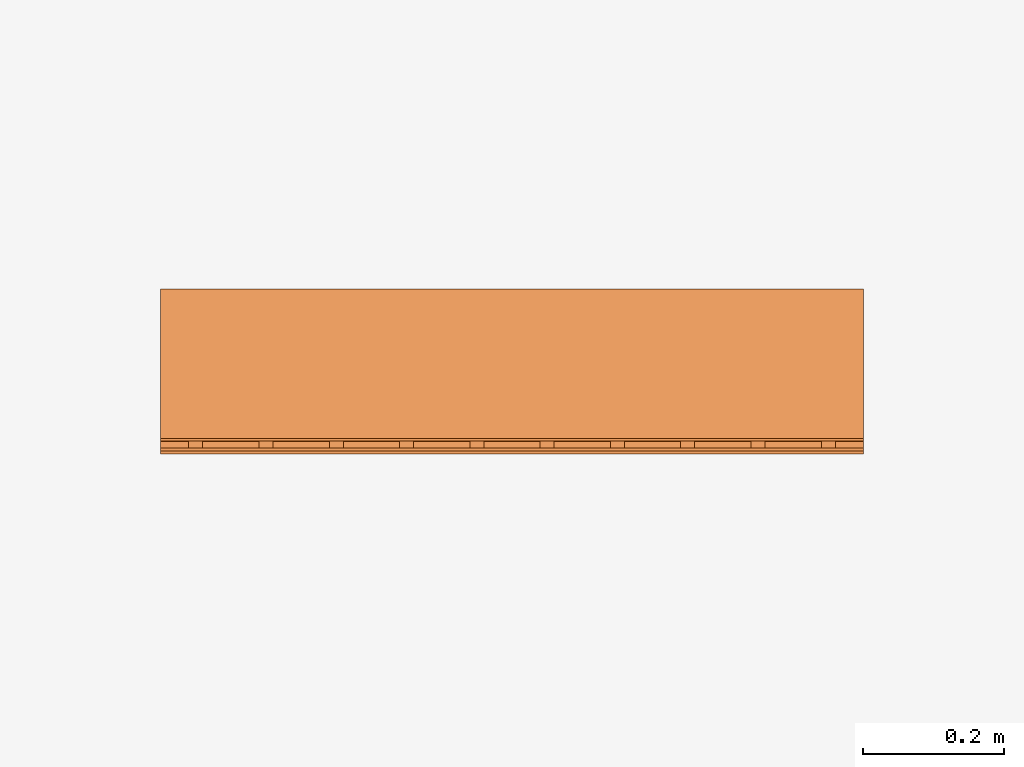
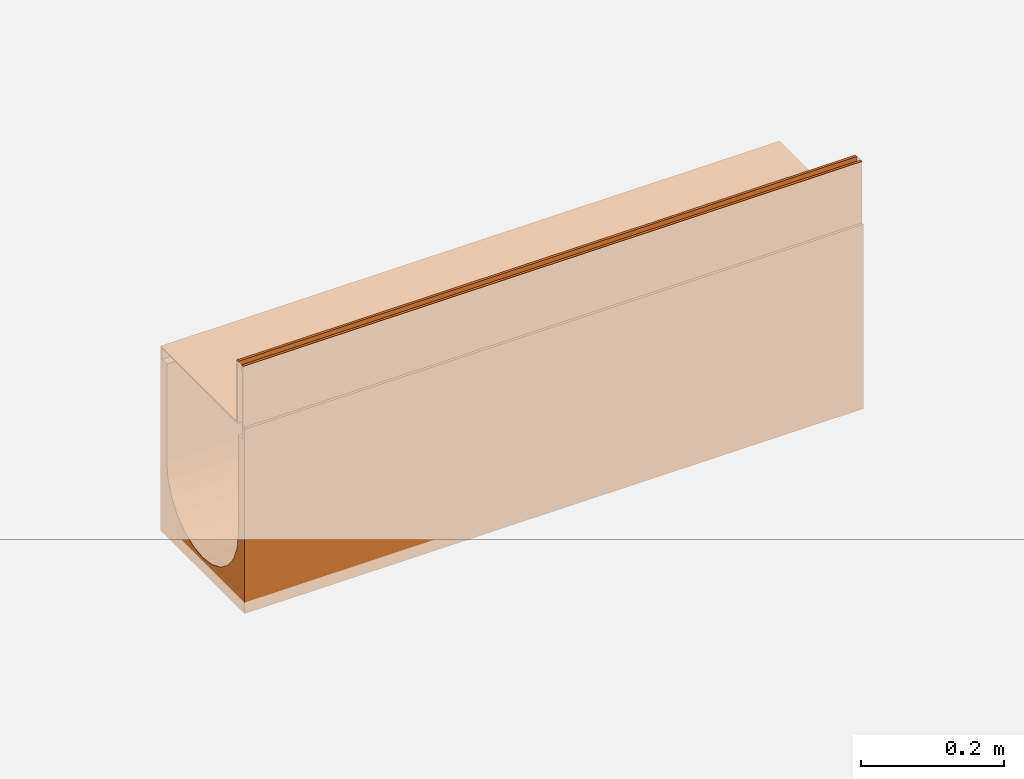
# One storey, part 2 of 2: 1 proxy.
"""IFC2X3 building model written with IfcOpenShell, lengths in millimetres."""

import ifcopenshell
import ifcopenshell.guid

model = None  # the IFC model being written
_history = None  # IfcOwnerHistory: only IFC2X3 demands one
_inside = {}  # id of a spatial element -> (the spatial element, [elements in it])
_under = {}  # id of a project, library or spatial element -> (it, [spatial elements below it])
_declared = {}  # id of a project -> (the project, [libraries it declares])
_typed = {}  # id of a type object -> (the type object, [elements of that type])
_made_of = {}  # id of a material, layer set ... -> (it, [elements and type objects made of it])


def new_model(schema):
    """Start an empty IFC model of exactly this schema.

    Asked for "IFC4X3", IfcOpenShell would pick the latest addendum, in which some entities
    have other attributes; the version numbers below select the first issue.
    IFC2X3 requires an IfcOwnerHistory on every rooted entity: one is made here for all.
    """
    global model, _history
    if schema == "IFC4X3":
        model = ifcopenshell.file(schema_version=(4, 3, 0, 0))
    else:
        model = ifcopenshell.file(schema=schema)
    _inside.clear()
    _under.clear()
    _declared.clear()
    _typed.clear()
    _made_of.clear()
    _history = None
    if model.schema == "IFC2X3":
        org = make("IfcOrganization", Name="unknown")
        user = make(
            "IfcPersonAndOrganization",
            ThePerson=make("IfcPerson", FamilyName="unknown"),
            TheOrganization=org,
        )
        app = make(
            "IfcApplication",
            ApplicationDeveloper=org,
            Version="unknown",
            ApplicationFullName="unknown",
            ApplicationIdentifier="unknown",
        )
        _history = make(
            "IfcOwnerHistory",
            OwningUser=user,
            OwningApplication=app,
            ChangeAction="ADDED",
            CreationDate=0,
        )
    return model


def make(cls, **values):
    """One entity of the class cls with the attributes given. An attribute that is None is left unset."""
    return model.create_entity(
        cls, **{name: value for name, value in values.items() if value is not None}
    )


def entity(cls, *values):
    """Any entity or typed value of the class cls, its attributes in the order of the schema. None: left unset."""
    e = model.create_entity(cls)
    for i, value in enumerate(values):
        if value is not None:
            e[i] = value
    return e


def rooted(cls, **values):
    """An entity with a GlobalId (a new one), such as an element, a storey or a relation."""
    return make(cls, GlobalId=ifcopenshell.guid.new(), OwnerHistory=_history, **values)


def si_unit(unit_type, name, prefix=None):
    """IfcSIUnit, for example si_unit("LENGTHUNIT", "METRE", prefix="MILLI")."""
    return make("IfcSIUnit", UnitType=unit_type, Prefix=prefix, Name=name)


def converted_unit(unit_type, name, factor, base, dimensions=None, offset=None):
    """IfcConversionBasedUnit, such as the inch: factor (a typed value) times the base unit."""
    return make(
        "IfcConversionBasedUnit"
        if offset is None
        else "IfcConversionBasedUnitWithOffset",
        ConversionOffset=offset,
        Dimensions=None
        if dimensions is None
        else entity("IfcDimensionalExponents", *dimensions),
        UnitType=unit_type,
        Name=name,
        ConversionFactor=make(
            "IfcMeasureWithUnit", ValueComponent=factor, UnitComponent=base
        ),
    )


def assignment(units):
    """IfcUnitAssignment: the units of a project."""
    return None if units is None else make("IfcUnitAssignment", Units=units)


def point(xyz):
    """IfcCartesianPoint."""
    return None if xyz is None else make("IfcCartesianPoint", Coordinates=xyz)


def direction(xyz):
    """IfcDirection."""
    return None if xyz is None else make("IfcDirection", DirectionRatios=xyz)


def frame(location, z_axis=None, x_axis=None):
    """IfcAxis2Placement3D, a coordinate frame: its origin and axes. An axis left out is left unset."""
    return make(
        "IfcAxis2Placement3D",
        Location=point(location),
        Axis=direction(z_axis),
        RefDirection=direction(x_axis),
    )


def origin():
    """The frame at (0, 0, 0) with its axes left unset."""
    return frame((0.0, 0.0, 0.0))


def place(relative_to, where):
    """IfcLocalPlacement: puts the frame where relative to a parent placement (None: the world)."""
    return make(
        "IfcLocalPlacement", PlacementRelTo=relative_to, RelativePlacement=where
    )


def context(
    kind, dimensions, precision=None, world=None, true_north=None, identifier=None
):
    """IfcGeometricRepresentationContext, for example the 3D "Model" context."""
    return make(
        "IfcGeometricRepresentationContext",
        ContextIdentifier=identifier,
        ContextType=kind,
        CoordinateSpaceDimension=dimensions,
        Precision=precision,
        WorldCoordinateSystem=world,
        TrueNorth=true_north,
    )


def subcontext(parent, identifier, kind, view, scale=None):
    """IfcGeometricRepresentationSubContext, for example "Body" below "Model"."""
    return make(
        "IfcGeometricRepresentationSubContext",
        ContextIdentifier=identifier,
        ContextType=kind,
        ParentContext=parent,
        TargetScale=scale,
        TargetView=view,
    )


def project(units=None, contexts=None):
    """IfcProject with its units and contexts."""
    return rooted(
        "IfcProject",
        Name="project",
        RepresentationContexts=contexts,
        UnitsInContext=assignment(units),
    )


def spatial(cls, under=None, at=None, **own):
    """A site, building, storey or space (cls), placed at a placement, below another one or the project."""
    s = rooted(cls, ObjectPlacement=at, **own)
    if under is not None:
        _under.setdefault(under.id(), (under, []))[1].append(s)
    return s


def faces_of(points, faces, orient=None, outer=None):
    """IfcFace entities. A face is a list of loops; a loop is a list of indices into points, from 0.

    orient and outer hold one flag for each loop. By default every Orientation is true, the
    first loop of a face is its IfcFaceOuterBound and the others are IfcFaceBound.
    """
    made = []
    for i, loops in enumerate(faces):
        bounds = []
        for j, loop in enumerate(loops):
            is_outer = j == 0 if outer is None else outer[i][j]
            bounds.append(
                make(
                    "IfcFaceOuterBound" if is_outer else "IfcFaceBound",
                    Bound=make("IfcPolyLoop", Polygon=[points[k] for k in loop]),
                    Orientation=True if orient is None else orient[i][j],
                )
            )
        made.append(make("IfcFace", Bounds=bounds))
    return made


def faceted_brep(points, faces, orient=None, outer=None, voids=None):
    """IfcFacetedBrep: a solid bounded by flat faces; with voids (closed shells), ...WithVoids."""
    shared = [point(p) for p in points]
    hull = make("IfcClosedShell", CfsFaces=faces_of(shared, faces, orient, outer))
    if voids is None:
        return make("IfcFacetedBrep", Outer=hull)
    return make(
        "IfcFacetedBrepWithVoids",
        Outer=hull,
        Voids=[
            make(cls, CfsFaces=faces_of(shared, fs, o, b)) for cls, fs, o, b in voids
        ],
    )


def shape(context_of_items, identifier, shape_type, items):
    """IfcShapeRepresentation: the items that make up one representation, for example the "Body"."""
    return make(
        "IfcShapeRepresentation",
        ContextOfItems=context_of_items,
        RepresentationIdentifier=identifier,
        RepresentationType=shape_type,
        Items=items,
    )


def source(mapping_origin, context_of_items, identifier, shape_type, items):
    """IfcRepresentationMap: a shape defined once, which mapped items show again and again."""
    return make(
        "IfcRepresentationMap",
        MappingOrigin=mapping_origin,
        MappedRepresentation=shape(context_of_items, identifier, shape_type, items),
    )


def transform(
    local_origin,
    x_axis=None,
    y_axis=None,
    z_axis=None,
    scale=None,
    scale2=None,
    scale3=None,
    uniform=True,
):
    """IfcCartesianTransformationOperator3D, or its non-uniform kind. x_axis, y_axis, z_axis: its Axis1, 2, 3."""
    if uniform:
        return make(
            "IfcCartesianTransformationOperator3D",
            Axis1=direction(x_axis),
            Axis2=direction(y_axis),
            LocalOrigin=point(local_origin),
            Scale=scale,
            Axis3=direction(z_axis),
        )
    return make(
        "IfcCartesianTransformationOperator3DnonUniform",
        Axis1=direction(x_axis),
        Axis2=direction(y_axis),
        LocalOrigin=point(local_origin),
        Scale=scale,
        Axis3=direction(z_axis),
        Scale2=scale2,
        Scale3=scale3,
    )


def mapped(mapping_source, mapping_target):
    """IfcMappedItem: shows the shape of a source again, moved by a transform."""
    return make(
        "IfcMappedItem", MappingSource=mapping_source, MappingTarget=mapping_target
    )


def material(Name=None, Category=None):
    """IfcMaterial."""
    return make("IfcMaterial", Name=Name, Category=Category)


def material_list(materials):
    """IfcMaterialList."""
    return make("IfcMaterialList", Materials=materials)


def made_of(thing, what):
    """Note that an element or type object is made of a material, layer set ...; save() writes the relation."""
    if what is not None:
        _made_of.setdefault(what.id(), (what, []))[1].append(thing)
    return thing


def element(
    cls,
    number,
    at=None,
    inside=None,
    cuts=None,
    type_object=None,
    material=None,
    context=None,
    identifier="Body",
    shape_type=None,
    held_by="IfcProductDefinitionShape",
    body=None,
    shapes=None,
    **own,
):
    """One element of the class cls, such as IfcWall. Its Tag is "e" and its number.

    at: its placement. inside: the storey or other place that contains it. cuts: it is an
    opening in that element (IfcRelVoidsElement). A single representation is given by context,
    identifier, shape_type and body (its items); several are given by shapes. held_by: the class
    of the entity that holds the representations. save() writes the other relations.
    """
    e = rooted(cls, Tag="e%d" % number, ObjectPlacement=at, **own)
    if body is not None:
        shapes = [shape(context, identifier, shape_type, body)]
    if shapes is not None:
        e.Representation = make(held_by, Representations=shapes)
    if inside is not None:
        _inside.setdefault(inside.id(), (inside, []))[1].append(e)
    if cuts is not None:
        rooted(
            "IfcRelVoidsElement", RelatingBuildingElement=cuts, RelatedOpeningElement=e
        )
    if type_object is not None:
        _typed.setdefault(type_object.id(), (type_object, []))[1].append(e)
    return made_of(e, material)


def aggregate(whole, parts):
    """IfcRelAggregates: a whole, such as a stair, and the parts it consists of."""
    return rooted("IfcRelAggregates", RelatingObject=whole, RelatedObjects=parts)


def save(model, path):
    """Write the relations noted so far, then the file.

    IfcRelAggregates (storeys below a building ...), IfcRelContainedInSpatialStructure (elements
    in a storey), IfcRelDefinesByType, IfcRelAssociatesMaterial and IfcRelDeclares: one each for
    every whole, place, type object, material and project.
    """
    for whole, parts in _under.values():
        aggregate(whole, parts)
    for where, things in _inside.values():
        rooted(
            "IfcRelContainedInSpatialStructure",
            RelatedElements=things,
            RelatingStructure=where,
        )
    for kind, things in _typed.values():
        rooted("IfcRelDefinesByType", RelatedObjects=things, RelatingType=kind)
    for what, things in _made_of.values():
        rooted("IfcRelAssociatesMaterial", RelatedObjects=things, RelatingMaterial=what)
    for by, libraries in _declared.values():
        rooted("IfcRelDeclares", RelatingContext=by, RelatedDefinitions=libraries)
    model.write(path)


model = new_model("IFC2X3")

# Units and contexts
model_context = context("Model", 3, precision=1e-06, world=origin(), true_north=direction((2.0, 6.12303176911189e-17, 1.0)))
context_of_model = context(None, 3, precision=1e-06, world=origin(), true_north=direction((2.0, 6.12303176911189e-17, 1.0)))
body_context = subcontext(model_context, "Body", "Model", "MODEL_VIEW")
ifc_project = project(units=[si_unit("LENGTHUNIT", "METRE", prefix="MILLI"), si_unit("AREAUNIT", "SQUARE_METRE", prefix="MILLI"), si_unit("VOLUMEUNIT", "CUBIC_METRE", prefix="MILLI"), converted_unit("PLANEANGLEUNIT", "DEGREE", entity("IfcRatioMeasure", 0.0174532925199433), si_unit("PLANEANGLEUNIT", "RADIAN"), dimensions=[0, 0, 0, 0, 0, 0, 0]), si_unit("TIMEUNIT", "SECOND")], contexts=[model_context, context_of_model])

# Site, building, storey
site_placement = place(None, origin())
site = spatial("IfcSite", under=ifc_project, at=site_placement, Name="Default", CompositionType="ELEMENT")
building_placement = place(site_placement, origin())
building = spatial("IfcBuilding", under=site, at=building_placement, CompositionType="ELEMENT")
storey_placement = place(building_placement, origin())
storey = spatial("IfcBuildingStorey", under=building, at=storey_placement, Name="Level 1", CompositionType="ELEMENT", Elevation=0.0)

# Proxy
ifc_material_1 = material(Name="Steel, Galvanized")
ifc_material_2 = material(Name="Vienite® Synthetic Resin Concrete")
ifc_material_list = material_list([ifc_material_1, ifc_material_2])
shared_shape = source(origin(), body_context, "Body", "Brep", [
    faceted_brep([(113.249999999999, 140.0, -107.0), (113.249999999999, 142.0, -109.0), (113.249999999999, 158.0, -109.0), (113.249999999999, 160.0, -107.0), (113.249999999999, 142.0, -123.4999999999), (113.249999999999, 140.0, -125.4999999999), (113.249999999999, 158.0, -123.4999999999), (113.249999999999, 160.0, -125.4999999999), (-111.250000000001, 140.0, -125.4999999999), (-111.250000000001, 142.0, -123.4999999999), (-111.250000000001, 158.0, -123.4999999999), (-111.250000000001, 160.0, -125.4999999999), (-111.250000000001, 142.0, -109.0), (-111.250000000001, 140.0, -107.0), (-111.250000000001, 158.0, -109.0), (-111.250000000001, 160.0, -107.0)], [[[0, 1, 2, 3]], [[4, 1, 0, 5]], [[3, 2, 6, 7]], [[6, 4, 5, 7]], [[8, 9, 10, 11]], [[12, 9, 8, 13]], [[11, 10, 14, 15]], [[14, 12, 13, 15]], [[8, 5, 0, 13]], [[7, 5, 8, 11]], [[15, 3, 7, 11]], [[0, 3, 15, 13]], [[1, 4, 9, 12]], [[2, 1, 12, 14]], [[10, 6, 2, 14]], [[4, 6, 10, 9]]]),
    faceted_brep([(113.25, 240.0, -107.0), (113.25, 242.0, -109.0), (113.25, 258.0, -109.0), (113.25, 260.0, -107.0), (113.25, 242.0, -123.4999999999), (113.25, 240.0, -125.4999999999), (113.25, 258.0, -123.4999999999), (113.25, 260.0, -125.4999999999), (-111.25, 240.0, -125.4999999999), (-111.25, 242.0, -123.4999999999), (-111.25, 258.0, -123.4999999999), (-111.25, 260.0, -125.4999999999), (-111.25, 242.0, -109.0), (-111.25, 240.0, -107.0), (-111.25, 258.0, -109.0), (-111.25, 260.0, -107.0)], [[[0, 1, 2, 3]], [[4, 1, 0, 5]], [[3, 2, 6, 7]], [[6, 4, 5, 7]], [[8, 9, 10, 11]], [[12, 9, 8, 13]], [[11, 10, 14, 15]], [[14, 12, 13, 15]], [[8, 5, 0, 13]], [[7, 5, 8, 11]], [[15, 3, 7, 11]], [[0, 3, 15, 13]], [[1, 4, 9, 12]], [[2, 1, 12, 14]], [[10, 6, 2, 14]], [[4, 6, 10, 9]]]),
    faceted_brep([(113.249999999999, 340.0, -107.0), (113.249999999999, 342.0, -109.0), (113.249999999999, 358.0, -109.0), (113.249999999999, 360.0, -107.0), (113.249999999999, 342.0, -123.4999999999), (113.249999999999, 340.0, -125.4999999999), (113.249999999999, 358.0, -123.4999999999), (113.249999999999, 360.0, -125.4999999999), (-111.250000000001, 340.0, -125.4999999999), (-111.250000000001, 342.0, -123.4999999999), (-111.250000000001, 358.0, -123.4999999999), (-111.250000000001, 360.0, -125.4999999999), (-111.250000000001, 342.0, -109.0), (-111.250000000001, 340.0, -107.0), (-111.250000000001, 358.0, -109.0), (-111.250000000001, 360.0, -107.0)], [[[0, 1, 2, 3]], [[4, 1, 0, 5]], [[3, 2, 6, 7]], [[6, 4, 5, 7]], [[8, 9, 10, 11]], [[12, 9, 8, 13]], [[11, 10, 14, 15]], [[14, 12, 13, 15]], [[8, 5, 0, 13]], [[7, 5, 8, 11]], [[15, 3, 7, 11]], [[0, 3, 15, 13]], [[1, 4, 9, 12]], [[2, 1, 12, 14]], [[10, 6, 2, 14]], [[4, 6, 10, 9]]]),
    faceted_brep([(113.249999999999, 440.0, -107.0), (113.249999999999, 442.0, -109.0), (113.249999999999, 458.0, -109.0), (113.249999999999, 460.0, -107.0), (113.249999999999, 442.0, -123.4999999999), (113.249999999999, 440.0, -125.4999999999), (113.249999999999, 458.0, -123.4999999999), (113.249999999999, 460.0, -125.4999999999), (-111.250000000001, 440.0, -125.4999999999), (-111.250000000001, 442.0, -123.4999999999), (-111.250000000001, 458.0, -123.4999999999), (-111.250000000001, 460.0, -125.4999999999), (-111.250000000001, 442.0, -109.0), (-111.250000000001, 440.0, -107.0), (-111.250000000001, 458.0, -109.0), (-111.250000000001, 460.0, -107.0)], [[[0, 1, 2, 3]], [[4, 1, 0, 5]], [[3, 2, 6, 7]], [[6, 4, 5, 7]], [[8, 9, 10, 11]], [[12, 9, 8, 13]], [[11, 10, 14, 15]], [[14, 12, 13, 15]], [[8, 5, 0, 13]], [[7, 5, 8, 11]], [[15, 3, 7, 11]], [[0, 3, 15, 13]], [[1, 4, 9, 12]], [[2, 1, 12, 14]], [[10, 6, 2, 14]], [[4, 6, 10, 9]]]),
    faceted_brep([(113.249999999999, 40.0, -107.0), (113.249999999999, 42.0, -109.0), (113.249999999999, 58.0, -109.0), (113.249999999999, 60.0, -107.0), (113.249999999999, 42.0, -123.4999999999), (113.249999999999, 40.0, -125.4999999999), (113.249999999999, 58.0, -123.4999999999), (113.249999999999, 60.0, -125.4999999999), (-111.250000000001, 40.0, -125.4999999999), (-111.250000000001, 42.0, -123.4999999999), (-111.250000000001, 58.0, -123.4999999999), (-111.250000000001, 60.0, -125.4999999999), (-111.250000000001, 42.0, -109.0), (-111.250000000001, 40.0, -107.0), (-111.250000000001, 58.0, -109.0), (-111.250000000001, 60.0, -107.0)], [[[0, 1, 2, 3]], [[4, 1, 0, 5]], [[3, 2, 6, 7]], [[6, 4, 5, 7]], [[8, 9, 10, 11]], [[12, 9, 8, 13]], [[11, 10, 14, 15]], [[14, 12, 13, 15]], [[8, 5, 0, 13]], [[7, 5, 8, 11]], [[15, 3, 7, 11]], [[0, 3, 15, 13]], [[1, 4, 9, 12]], [[2, 1, 12, 14]], [[10, 6, 2, 14]], [[4, 6, 10, 9]]]),
    faceted_brep([(113.25, 540.0, -107.0), (113.25, 542.0, -109.0), (113.25, 558.0, -109.0), (113.25, 560.0, -107.0), (113.25, 542.0, -123.4999999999), (113.25, 540.0, -125.4999999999), (113.25, 558.0, -123.4999999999), (113.25, 560.0, -125.4999999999), (-111.25, 540.0, -125.4999999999), (-111.25, 542.0, -123.4999999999), (-111.25, 558.0, -123.4999999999), (-111.25, 560.0, -125.4999999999), (-111.25, 542.0, -109.0), (-111.25, 540.0, -107.0), (-111.25, 558.0, -109.0), (-111.25, 560.0, -107.0)], [[[0, 1, 2, 3]], [[4, 1, 0, 5]], [[3, 2, 6, 7]], [[6, 4, 5, 7]], [[8, 9, 10, 11]], [[12, 9, 8, 13]], [[11, 10, 14, 15]], [[14, 12, 13, 15]], [[8, 5, 0, 13]], [[7, 5, 8, 11]], [[15, 3, 7, 11]], [[0, 3, 15, 13]], [[1, 4, 9, 12]], [[2, 1, 12, 14]], [[10, 6, 2, 14]], [[4, 6, 10, 9]]]),
    faceted_brep([(113.25, 640.0, -107.0), (113.25, 642.0, -109.0), (113.25, 658.0, -109.0), (113.25, 660.0, -107.0), (113.25, 642.0, -123.4999999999), (113.25, 640.0, -125.4999999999), (113.25, 658.0, -123.4999999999), (113.25, 660.0, -125.4999999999), (-111.25, 640.0, -125.4999999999), (-111.25, 642.0, -123.4999999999), (-111.25, 658.0, -123.4999999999), (-111.25, 660.0, -125.4999999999), (-111.25, 642.0, -109.0), (-111.25, 640.0, -107.0), (-111.25, 658.0, -109.0), (-111.25, 660.0, -107.0)], [[[0, 1, 2, 3]], [[4, 1, 0, 5]], [[3, 2, 6, 7]], [[6, 4, 5, 7]], [[8, 9, 10, 11]], [[12, 9, 8, 13]], [[11, 10, 14, 15]], [[14, 12, 13, 15]], [[8, 5, 0, 13]], [[11, 7, 5, 8]], [[15, 3, 7, 11]], [[0, 3, 15, 13]], [[1, 4, 9, 12]], [[2, 1, 12, 14]], [[10, 6, 2, 14]], [[4, 6, 10, 9]]]),
    faceted_brep([(113.25, 740.0, -107.0), (113.25, 742.0, -109.0), (113.25, 758.0, -109.0), (113.25, 760.0, -107.0), (113.25, 742.0, -123.4999999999), (113.25, 740.0, -125.4999999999), (113.25, 758.0, -123.4999999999), (113.25, 760.0, -125.4999999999), (-111.25, 740.0, -125.4999999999), (-111.25, 742.0, -123.4999999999), (-111.25, 758.0, -123.4999999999), (-111.25, 760.0, -125.4999999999), (-111.25, 742.0, -109.0), (-111.25, 740.0, -107.0), (-111.25, 758.0, -109.0), (-111.25, 760.0, -107.0)], [[[0, 1, 2, 3]], [[4, 1, 0, 5]], [[3, 2, 6, 7]], [[6, 4, 5, 7]], [[8, 9, 10, 11]], [[12, 9, 8, 13]], [[11, 10, 14, 15]], [[14, 12, 13, 15]], [[8, 5, 0, 13]], [[11, 7, 5, 8]], [[15, 3, 7, 11]], [[0, 3, 15, 13]], [[1, 4, 9, 12]], [[2, 1, 12, 14]], [[10, 6, 2, 14]], [[4, 6, 10, 9]]]),
    faceted_brep([(113.25, 840.0, -107.0), (113.25, 842.0, -109.0), (113.25, 858.0, -109.0), (113.25, 860.0, -107.0), (113.25, 842.0, -123.4999999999), (113.25, 840.0, -125.4999999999), (113.25, 858.0, -123.4999999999), (113.25, 860.0, -125.4999999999), (-111.25, 840.0, -125.4999999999), (-111.25, 842.0, -123.4999999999), (-111.25, 858.0, -123.4999999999), (-111.25, 860.0, -125.4999999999), (-111.25, 842.0, -109.0), (-111.25, 840.0, -107.0), (-111.25, 858.0, -109.0), (-111.25, 860.0, -107.0)], [[[0, 1, 2, 3]], [[4, 1, 0, 5]], [[3, 2, 6, 7]], [[6, 4, 5, 7]], [[8, 9, 10, 11]], [[12, 9, 8, 13]], [[11, 10, 14, 15]], [[14, 12, 13, 15]], [[8, 5, 0, 13]], [[11, 7, 5, 8]], [[15, 3, 7, 11]], [[0, 3, 15, 13]], [[1, 4, 9, 12]], [[2, 1, 12, 14]], [[10, 6, 2, 14]], [[4, 6, 10, 9]]]),
    faceted_brep([(113.250000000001, 940.0, -107.0), (113.250000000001, 942.0, -109.0), (113.250000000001, 958.0, -109.0), (113.250000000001, 960.0, -107.0), (113.250000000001, 942.0, -123.49999999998), (113.250000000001, 940.0, -125.49999999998), (113.250000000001, 958.0, -123.49999999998), (113.250000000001, 960.0, -125.499999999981), (-111.249999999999, 940.0, -125.49999999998), (-111.249999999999, 942.0, -123.49999999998), (-111.249999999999, 958.0, -123.49999999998), (-111.249999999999, 960.0, -125.499999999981), (-111.249999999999, 942.0, -109.0), (-111.249999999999, 940.0, -107.0), (-111.249999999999, 958.0, -109.0), (-111.249999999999, 960.0, -107.0)], [[[0, 1, 2, 3]], [[4, 1, 0, 5]], [[3, 2, 6, 7]], [[6, 4, 5, 7]], [[8, 9, 10, 11]], [[12, 9, 8, 13]], [[11, 10, 14, 15]], [[14, 12, 13, 15]], [[8, 5, 0, 13]], [[11, 7, 5, 8]], [[15, 3, 7, 11]], [[0, 3, 15, 13]], [[1, 4, 9, 12]], [[2, 1, 12, 14]], [[10, 6, 2, 14]], [[4, 6, 10, 9]]]),
    faceted_brep([(-97.2500000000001, 0.0, -10.0), (-97.2500000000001, 0.0, -107.0), (-95.2500000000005, 0.0, -105.0), (-95.2500000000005, 0.0, 0.0), (-99.2500000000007, 0.0, 0.0), (-99.2500000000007, 0.0, -10.0), (113.25, 0.0, -107.0), (113.25, 0.0, -105.0), (-95.2500000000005, 1000.0, -105.0), (113.25, 1000.0, -105.0), (113.25, 1000.0, -107.0), (-97.2500000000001, 1000.0, -107.0), (-97.2500000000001, 1000.0, -10.0), (-95.2500000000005, 1000.0, 0.0), (-99.2500000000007, 1000.0, -10.0), (-99.2500000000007, 1000.0, 0.0)], [[[0, 1, 2, 3]], [[4, 5, 0, 3]], [[6, 7, 2, 1]], [[8, 9, 10, 11]], [[12, 13, 8, 11]], [[12, 14, 15, 13]], [[12, 0, 5, 14]], [[11, 1, 0, 12]], [[10, 6, 1, 11]], [[2, 7, 9, 8]], [[3, 2, 8, 13]], [[15, 4, 3, 13]], [[5, 4, 15, 14]], [[9, 7, 6, 10]]]),
    faceted_brep([(-109.250000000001, 1000.0, 0.0), (-109.250000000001, 1000.0, -10.0), (-111.25, 1000.0, -10.0), (-113.250000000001, 1000.0, 0.0), (-113.250000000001, 1000.0, -125.49999999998), (-111.25, 1000.0, -125.49999999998), (-111.25, 0.0, -10.0), (-113.250000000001, 0.0, 0.0), (-113.250000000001, 0.0, -125.49999999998), (-111.25, 0.0, -125.49999999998), (-109.250000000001, 0.0, 0.0), (-109.250000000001, 0.0, -10.0)], [[[0, 1, 2, 3]], [[4, 3, 2, 5]], [[6, 7, 8, 9]], [[10, 7, 6, 11]], [[5, 9, 8, 4]], [[6, 9, 5, 2]], [[1, 11, 6, 2]], [[10, 11, 1, 0]], [[3, 7, 10, 0]], [[4, 8, 7, 3]]]),
    faceted_brep([(113.25, 1000.0, -125.50000000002), (113.25, 1000.0, -105.0), (117.5, 1000.0, -105.0), (117.5, 1000.0, -420.0), (100.0, 1000.0, -295.0), (100.0, 1000.0, -125.5), (-117.5, 1000.0, -105.0), (-113.25, 1000.0, -105.0), (-113.25, 1000.0, -125.500000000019), (-117.5, 1000.0, -420.0), (-100.0, 1000.0, -125.500000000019), (-100.0, 1000.0, -295.0), (96.5925826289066, 1000.0, -320.881904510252), (70.7106781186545, 1000.0, -365.710678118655), (86.6025403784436, 1000.0, -345.0), (50.0, 1000.0, -381.602540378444), (0.0, 1000.0, -395.0), (25.8819045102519, 1000.0, -391.592582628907), (-86.602540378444, 1000.0, -345.0), (-70.7106781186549, 1000.0, -365.710678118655), (-96.592582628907, 1000.0, -320.881904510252), (-50.0, 1000.0, -381.602540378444), (-25.8819045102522, 1000.0, -391.592582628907), (117.5, 0.0, -420.0), (25.8819045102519, 0.0, -391.592582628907), (0.0, 0.0, -395.0), (50.0, 0.0, -381.602540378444), (70.7106781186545, 0.0, -365.710678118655), (86.6025403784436, 0.0, -345.0), (96.5925826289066, 0.0, -320.881904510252), (-25.8819045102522, 0.0, -391.592582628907), (-117.5, 0.0, -420.0), (-50.0, 0.0, -381.602540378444), (-70.7106781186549, 0.0, -365.710678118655), (-86.602540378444, 0.0, -345.0), (-96.592582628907, 0.0, -320.881904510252), (100.0, 0.0, -295.0), (113.25, 0.0, -125.50000000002), (100.0, 0.0, -125.5), (117.5, 0.0, -105.0), (113.25, 0.0, -105.0), (-100.0, 0.0, -295.0), (-100.0, 0.0, -125.500000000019), (-113.25, 0.0, -125.500000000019), (-113.25, 0.0, -105.0), (-117.5, 0.0, -105.0), (-20.7055236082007, 47.7259338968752, -420.0), (0.0, 45.0, -420.0), (-40.0, 55.7179676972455, -420.0), (-77.2740661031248, 104.294476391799, -420.0), (-69.2820323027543, 85.0, -420.0), (-56.5685424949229, 68.4314575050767, -420.0), (-80.0, 125.0, -420.0), (20.7055236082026, 47.7259338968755, -420.0), (40.0, 55.7179676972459, -420.0), (56.5685424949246, 68.4314575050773, -420.0), (69.2820323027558, 85.0, -420.0), (77.2740661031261, 104.294476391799, -420.0), (80.0, 125.0, -420.0), (77.2740661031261, 145.705523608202, -420.0), (-77.2740661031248, 145.705523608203, -420.0), (-69.2820323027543, 165.0, -420.0), (-56.5685424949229, 181.568542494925, -420.0), (-40.0, 194.282032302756, -420.0), (-20.7055236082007, 202.274066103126, -420.0), (0.0, 205.0, -420.0), (69.2820323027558, 165.0, -420.0), (56.5685424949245, 181.568542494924, -420.0), (20.7055236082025, 202.274066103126, -420.0), (40.0, 194.282032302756, -420.0), (100.0, 500.0, -295.0), (-100.0, 500.0, -295.0), (79.3353338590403, 467.006348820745, -355.876143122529), (38.2683432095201, 532.993650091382, -387.387953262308), (13.0526192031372, 500.0, -394.144486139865), (92.387953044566, 499.999995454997, -333.268343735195), (98.0785279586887, 394.67089312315, -314.509032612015), (60.8761427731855, 500.0, -374.335334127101), (-92.3879532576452, 500.0, -333.268343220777), (-98.0785280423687, 605.329099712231, -314.509032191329), (-60.8761429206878, 467.006350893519, -374.335334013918), (-38.2683432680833, 500.0, -387.38795323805), (-13.0526192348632, 532.993648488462, -394.144486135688), (-79.335334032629, 532.993648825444, -355.876142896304), (-56.5685424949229, 181.568542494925, -410.0), (-40.0, 194.282032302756, -410.0), (-20.7055236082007, 202.274066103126, -410.0), (40.0, 194.282032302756, -410.0), (-80.0, 125.0, -410.0), (-77.2740661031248, 145.705523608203, -410.0), (-69.2820323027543, 165.0, -410.0), (77.2740661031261, 145.705523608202, -410.0), (0.0, 205.0, -410.0), (20.7055236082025, 202.274066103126, -410.0), (56.5685424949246, 181.568542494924, -410.0), (69.2820323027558, 165.0, -410.0), (-77.2740661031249, 104.294476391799, -410.0), (80.0, 125.0, -410.0), (-56.5685424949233, 68.4314575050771, -410.0), (-69.2820323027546, 85.0, -410.0), (-40.0, 55.7179676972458, -410.0), (0.0, 45.0, -410.0), (-20.7055236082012, 47.7259338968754, -410.0), (40.0, 55.7179676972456, -410.0), (77.2740661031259, 104.294476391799, -410.0), (69.2820323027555, 85.0, -410.0), (56.5685424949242, 68.4314575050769, -410.0), (20.7055236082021, 47.7259338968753, -410.0)], [[[0, 1, 2, 3]], [[4, 5, 0, 3]], [[6, 7, 8, 9]], [[8, 10, 11, 9]], [[4, 3, 12]], [[13, 14, 3]], [[15, 13, 3]], [[16, 17, 3, 9]], [[3, 17, 15]], [[14, 12, 3]], [[18, 19, 9]], [[20, 18, 9]], [[21, 22, 9]], [[9, 22, 16]], [[21, 9, 19]], [[20, 9, 11]], [[23, 24, 25]], [[24, 23, 26]], [[27, 26, 23]], [[28, 27, 23]], [[23, 29, 28]], [[25, 30, 31, 23]], [[31, 30, 32]], [[33, 34, 31]], [[32, 33, 31]], [[31, 34, 35]], [[36, 29, 23]], [[37, 38, 36, 23]], [[39, 40, 37, 23]], [[41, 42, 43, 31]], [[35, 41, 31]], [[43, 44, 45, 31]], [[7, 44, 43, 8]], [[45, 44, 7, 6]], [[9, 31, 45, 6]], [[31, 46, 47, 23]], [[46, 31, 48]], [[49, 50, 31]], [[51, 48, 31]], [[50, 51, 31]], [[31, 52, 49]], [[23, 53, 54]], [[53, 23, 47]], [[23, 54, 55]], [[55, 56, 23]], [[57, 58, 23]], [[56, 57, 23]], [[23, 58, 59, 3]], [[60, 52, 31, 9]], [[61, 60, 9]], [[62, 9, 63]], [[9, 62, 61]], [[64, 63, 9]], [[65, 64, 9, 3]], [[66, 67, 3]], [[59, 66, 3]], [[68, 65, 3]], [[69, 3, 67]], [[3, 69, 68]], [[2, 39, 23, 3]], [[1, 40, 39, 2]], [[37, 40, 1, 0]], [[5, 38, 37, 0]], [[36, 38, 5]], [[5, 4, 70, 36]], [[10, 42, 41, 71]], [[8, 43, 42, 10]], [[72, 27, 28]], [[73, 74, 24]], [[28, 29, 75]], [[75, 29, 76]], [[27, 77, 26]], [[78, 79, 35]], [[70, 76, 36]], [[75, 72, 28]], [[71, 79, 11]], [[73, 24, 26]], [[14, 75, 12]], [[70, 4, 12]], [[76, 29, 36]], [[74, 25, 24]], [[80, 33, 32]], [[72, 75, 14]], [[20, 11, 79]], [[14, 13, 72]], [[15, 73, 77]], [[21, 81, 22]], [[17, 73, 15]], [[82, 81, 30]], [[17, 16, 74]], [[15, 77, 13]], [[32, 30, 81]], [[83, 80, 19]], [[35, 79, 71]], [[80, 32, 81]], [[35, 34, 78]], [[83, 34, 33]], [[82, 22, 81]], [[78, 34, 83]], [[19, 80, 21]], [[41, 35, 71]], [[30, 25, 82]], [[22, 82, 16]], [[72, 77, 27]], [[82, 74, 16]], [[12, 76, 70]], [[80, 81, 21]], [[73, 17, 74]], [[18, 78, 83]], [[83, 19, 18]], [[77, 73, 26]], [[20, 79, 78]], [[77, 72, 13]], [[74, 82, 25]], [[33, 80, 83]], [[75, 76, 12]], [[20, 78, 18]], [[84, 85, 86, 87]], [[84, 88, 89, 90]], [[88, 84, 87, 91]], [[86, 92, 93, 87]], [[87, 94, 95, 91]], [[96, 88, 91, 97]], [[98, 99, 96, 100]], [[101, 102, 100, 103]], [[97, 100, 96]], [[104, 105, 106, 103]], [[97, 104, 103, 100]], [[103, 107, 101]], [[91, 59, 58, 97]], [[95, 66, 59, 91]], [[87, 69, 67, 94]], [[94, 67, 66, 95]], [[93, 68, 69, 87]], [[68, 93, 92, 65]], [[86, 64, 65, 92]], [[85, 63, 64, 86]], [[90, 61, 62, 84]], [[84, 62, 63, 85]], [[89, 60, 61, 90]], [[60, 89, 88, 52]], [[96, 49, 52, 88]], [[99, 50, 49, 96]], [[100, 48, 51, 98]], [[98, 51, 50, 99]], [[102, 46, 48, 100]], [[46, 102, 101, 47]], [[107, 53, 47, 101]], [[103, 54, 53, 107]], [[105, 56, 55, 106]], [[106, 55, 54, 103]], [[104, 57, 56, 105]], [[104, 97, 58, 57]], [[10, 71, 11]]]),
])
proxy_placement = place(storey_placement, frame((495.16587281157, 167.633200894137, 0.0), z_axis=(0.0, 0.0, 1.0), x_axis=(0.0, 1.0, 0.0)))
element("IfcBuildingElementProxy", 1, at=proxy_placement, inside=storey, material=ifc_material_list, Name="Civil-Drainage-Channel-ACO-MultiDrain-M200D-Brickslot-Channel-System:23211 - No 10.0 Constant Depth Channel - 1000mm LG - Invert Depth 290mm:23211 - No 10.0 Constant Depth Channel - 1000mm LG - Invert Depth 290mm", ObjectType="23211 - No 10.0 Constant Depth Channel - 1000mm LG - Invert Depth 290mm", CompositionType="ELEMENT", context=body_context, shape_type="MappedRepresentation", body=[
    mapped(shared_shape, transform((0.0, 0.0, 0.0), scale=1.0)),
])

save(model, "model.ifc")
